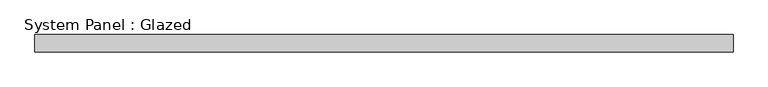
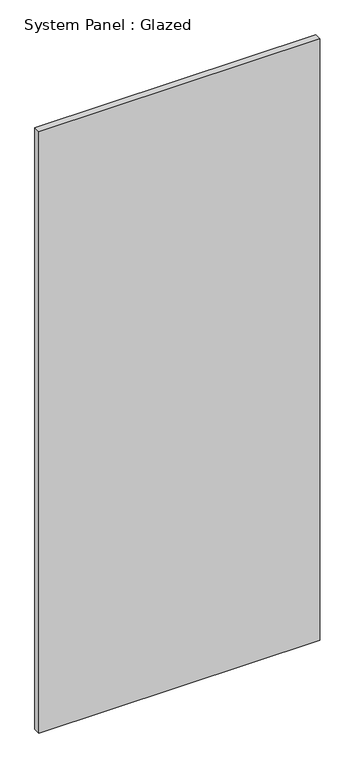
"""IFC4 building model written with IfcOpenShell, lengths in millimetres: plate geometry, System Panel : Glazed."""

import ifcopenshell
import ifcopenshell.guid

model = None  # the IFC model being written
_history = None  # IfcOwnerHistory: only IFC2X3 demands one
_inside = {}  # id of a spatial element -> (the spatial element, [elements in it])
_under = {}  # id of a project, library or spatial element -> (it, [spatial elements below it])
_declared = {}  # id of a project -> (the project, [libraries it declares])
_typed = {}  # id of a type object -> (the type object, [elements of that type])
_made_of = {}  # id of a material, layer set ... -> (it, [elements and type objects made of it])


def new_model(schema):
    """Start an empty IFC model of exactly this schema.

    Asked for "IFC4X3", IfcOpenShell would pick the latest addendum, in which some entities
    have other attributes; the version numbers below select the first issue.
    IFC2X3 requires an IfcOwnerHistory on every rooted entity: one is made here for all.
    """
    global model, _history
    if schema == "IFC4X3":
        model = ifcopenshell.file(schema_version=(4, 3, 0, 0))
    else:
        model = ifcopenshell.file(schema=schema)
    _inside.clear()
    _under.clear()
    _declared.clear()
    _typed.clear()
    _made_of.clear()
    _history = None
    if model.schema == "IFC2X3":
        org = make("IfcOrganization", Name="unknown")
        user = make(
            "IfcPersonAndOrganization",
            ThePerson=make("IfcPerson", FamilyName="unknown"),
            TheOrganization=org,
        )
        app = make(
            "IfcApplication",
            ApplicationDeveloper=org,
            Version="unknown",
            ApplicationFullName="unknown",
            ApplicationIdentifier="unknown",
        )
        _history = make(
            "IfcOwnerHistory",
            OwningUser=user,
            OwningApplication=app,
            ChangeAction="ADDED",
            CreationDate=0,
        )
    return model


def make(cls, **values):
    """One entity of the class cls with the attributes given. An attribute that is None is left unset."""
    return model.create_entity(
        cls, **{name: value for name, value in values.items() if value is not None}
    )


def rooted(cls, **values):
    """An entity with a GlobalId (a new one), such as an element, a storey or a relation."""
    return make(cls, GlobalId=ifcopenshell.guid.new(), OwnerHistory=_history, **values)


def si_unit(unit_type, name, prefix=None):
    """IfcSIUnit, for example si_unit("LENGTHUNIT", "METRE", prefix="MILLI")."""
    return make("IfcSIUnit", UnitType=unit_type, Prefix=prefix, Name=name)


def assignment(units):
    """IfcUnitAssignment: the units of a project."""
    return None if units is None else make("IfcUnitAssignment", Units=units)


def point(xyz):
    """IfcCartesianPoint."""
    return None if xyz is None else make("IfcCartesianPoint", Coordinates=xyz)


def direction(xyz):
    """IfcDirection."""
    return None if xyz is None else make("IfcDirection", DirectionRatios=xyz)


def frame(location, z_axis=None, x_axis=None):
    """IfcAxis2Placement3D, a coordinate frame: its origin and axes. An axis left out is left unset."""
    return make(
        "IfcAxis2Placement3D",
        Location=point(location),
        Axis=direction(z_axis),
        RefDirection=direction(x_axis),
    )


def origin():
    """The frame at (0, 0, 0) with its axes left unset."""
    return frame((0.0, 0.0, 0.0))


def origin_with_axes():
    """The frame at (0, 0, 0) with the z axis (0, 0, 1) and the x axis (1, 0, 0) written out."""
    return frame((0.0, 0.0, 0.0), z_axis=(0.0, 0.0, 1.0), x_axis=(1.0, 0.0, 0.0))


def place(relative_to, where):
    """IfcLocalPlacement: puts the frame where relative to a parent placement (None: the world)."""
    return make(
        "IfcLocalPlacement", PlacementRelTo=relative_to, RelativePlacement=where
    )


def context(
    kind, dimensions, precision=None, world=None, true_north=None, identifier=None
):
    """IfcGeometricRepresentationContext, for example the 3D "Model" context."""
    return make(
        "IfcGeometricRepresentationContext",
        ContextIdentifier=identifier,
        ContextType=kind,
        CoordinateSpaceDimension=dimensions,
        Precision=precision,
        WorldCoordinateSystem=world,
        TrueNorth=true_north,
    )


def project(units=None, contexts=None):
    """IfcProject with its units and contexts."""
    return rooted(
        "IfcProject",
        Name="project",
        RepresentationContexts=contexts,
        UnitsInContext=assignment(units),
    )


def spatial(cls, under=None, at=None, **own):
    """A site, building, storey or space (cls), placed at a placement, below another one or the project."""
    s = rooted(cls, ObjectPlacement=at, **own)
    if under is not None:
        _under.setdefault(under.id(), (under, []))[1].append(s)
    return s


def polyline(points):
    """IfcPolyline through the points."""
    return make("IfcPolyline", Points=[point(p) for p in points])


def outline(outer, holes=None, kind="AREA"):
    """IfcArbitraryClosedProfileDef: a profile drawn as a closed curve; with holes, ...WithVoids."""
    if holes is None:
        return make("IfcArbitraryClosedProfileDef", ProfileType=kind, OuterCurve=outer)
    return make(
        "IfcArbitraryProfileDefWithVoids",
        ProfileType=kind,
        OuterCurve=outer,
        InnerCurves=holes,
    )


def extrude(swept, where, along, depth):
    """IfcExtrudedAreaSolid: the profile swept, set in the frame where, extruded along a direction by depth."""
    return make(
        "IfcExtrudedAreaSolid",
        SweptArea=swept,
        Position=where,
        ExtrudedDirection=direction(along),
        Depth=depth,
    )


def shape(context_of_items, identifier, shape_type, items):
    """IfcShapeRepresentation: the items that make up one representation, for example the "Body"."""
    return make(
        "IfcShapeRepresentation",
        ContextOfItems=context_of_items,
        RepresentationIdentifier=identifier,
        RepresentationType=shape_type,
        Items=items,
    )


def source(mapping_origin, context_of_items, identifier, shape_type, items):
    """IfcRepresentationMap: a shape defined once, which mapped items show again and again."""
    return make(
        "IfcRepresentationMap",
        MappingOrigin=mapping_origin,
        MappedRepresentation=shape(context_of_items, identifier, shape_type, items),
    )


def transform(
    local_origin,
    x_axis=None,
    y_axis=None,
    z_axis=None,
    scale=None,
    scale2=None,
    scale3=None,
    uniform=True,
):
    """IfcCartesianTransformationOperator3D, or its non-uniform kind. x_axis, y_axis, z_axis: its Axis1, 2, 3."""
    if uniform:
        return make(
            "IfcCartesianTransformationOperator3D",
            Axis1=direction(x_axis),
            Axis2=direction(y_axis),
            LocalOrigin=point(local_origin),
            Scale=scale,
            Axis3=direction(z_axis),
        )
    return make(
        "IfcCartesianTransformationOperator3DnonUniform",
        Axis1=direction(x_axis),
        Axis2=direction(y_axis),
        LocalOrigin=point(local_origin),
        Scale=scale,
        Axis3=direction(z_axis),
        Scale2=scale2,
        Scale3=scale3,
    )


def mapped(mapping_source, mapping_target):
    """IfcMappedItem: shows the shape of a source again, moved by a transform."""
    return make(
        "IfcMappedItem", MappingSource=mapping_source, MappingTarget=mapping_target
    )


def made_of(thing, what):
    """Note that an element or type object is made of a material, layer set ...; save() writes the relation."""
    if what is not None:
        _made_of.setdefault(what.id(), (what, []))[1].append(thing)
    return thing


def element(
    cls,
    number,
    at=None,
    inside=None,
    cuts=None,
    type_object=None,
    material=None,
    context=None,
    identifier="Body",
    shape_type=None,
    held_by="IfcProductDefinitionShape",
    body=None,
    shapes=None,
    **own,
):
    """One element of the class cls, such as IfcWall. Its Tag is "e" and its number.

    at: its placement. inside: the storey or other place that contains it. cuts: it is an
    opening in that element (IfcRelVoidsElement). A single representation is given by context,
    identifier, shape_type and body (its items); several are given by shapes. held_by: the class
    of the entity that holds the representations. save() writes the other relations.
    """
    e = rooted(cls, Tag="e%d" % number, ObjectPlacement=at, **own)
    if body is not None:
        shapes = [shape(context, identifier, shape_type, body)]
    if shapes is not None:
        e.Representation = make(held_by, Representations=shapes)
    if inside is not None:
        _inside.setdefault(inside.id(), (inside, []))[1].append(e)
    if cuts is not None:
        rooted(
            "IfcRelVoidsElement", RelatingBuildingElement=cuts, RelatedOpeningElement=e
        )
    if type_object is not None:
        _typed.setdefault(type_object.id(), (type_object, []))[1].append(e)
    return made_of(e, material)


def aggregate(whole, parts):
    """IfcRelAggregates: a whole, such as a stair, and the parts it consists of."""
    return rooted("IfcRelAggregates", RelatingObject=whole, RelatedObjects=parts)


def save(model, path):
    """Write the relations noted so far, then the file.

    IfcRelAggregates (storeys below a building ...), IfcRelContainedInSpatialStructure (elements
    in a storey), IfcRelDefinesByType, IfcRelAssociatesMaterial and IfcRelDeclares: one each for
    every whole, place, type object, material and project.
    """
    for whole, parts in _under.values():
        aggregate(whole, parts)
    for where, things in _inside.values():
        rooted(
            "IfcRelContainedInSpatialStructure",
            RelatedElements=things,
            RelatingStructure=where,
        )
    for kind, things in _typed.values():
        rooted("IfcRelDefinesByType", RelatedObjects=things, RelatingType=kind)
    for what, things in _made_of.values():
        rooted("IfcRelAssociatesMaterial", RelatedObjects=things, RelatingMaterial=what)
    for by, libraries in _declared.values():
        rooted("IfcRelDeclares", RelatingContext=by, RelatedDefinitions=libraries)
    model.write(path)


def system_panel_glazed_e676b032(model_context):
    return source(origin(), model_context, "Body", "SweptSolid", [
        extrude(outline(polyline([(517.525, 19.05), (-517.525, 19.05), (-517.525, 44.45), (517.525, 44.45), (517.525, 19.05)])), origin_with_axes(), (0.0, 0.0, 1.0), 2343.15),
    ])


if __name__ == "__main__":
    model = new_model("IFC4")
    model_context = context("Model", 3, world=origin())
    ifc_project = project(units=[si_unit("LENGTHUNIT", "METRE", prefix="MILLI")], contexts=[model_context])
    site = spatial("IfcSite", under=ifc_project)
    building = spatial("IfcBuilding", under=site)
    placement = place(None, origin())
    system_panel_glazed_shape = system_panel_glazed_e676b032(model_context)
    element("IfcPlate", 1, ObjectType="System Panel : Glazed", at=placement, inside=building, context=model_context, shape_type="MappedRepresentation", body=[
        mapped(system_panel_glazed_shape, transform((0.0, 0.0, 0.0), x_axis=(1.0, 0.0, 0.0), y_axis=(0.0, 1.0, 0.0), z_axis=(0.0, 0.0, 1.0))),
    ])
    save(model, "model.ifc")
